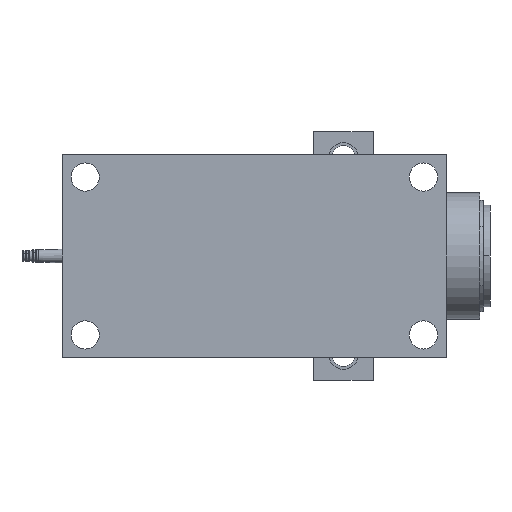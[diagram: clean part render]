
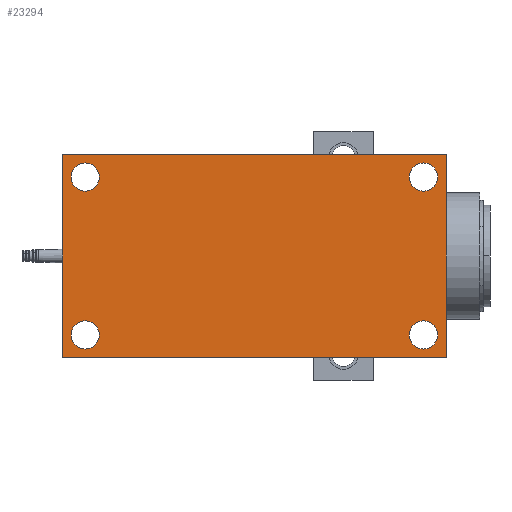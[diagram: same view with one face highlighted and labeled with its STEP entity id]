
A CAD part, front view. The second image highlights one B-rep face of the part: STEP entity #23294.
In plain terms, the highlighted planar face has unit normal (0, -1, 0).
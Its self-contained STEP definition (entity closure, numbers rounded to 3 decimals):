
#226 = DIRECTION ( 'NONE',  ( 0., 0., -1. ) ) ;
#260 = VERTEX_POINT ( 'NONE', #15306 ) ;
#381 = CARTESIAN_POINT ( 'NONE',  ( 150., 0., 70. ) ) ;
#398 = FACE_BOUND ( 'NONE', #14677, .T. ) ;
#443 = CARTESIAN_POINT ( 'NONE',  ( 150., 0., -70. ) ) ;
#444 = VERTEX_POINT ( 'NONE', #8949 ) ;
#480 = VERTEX_POINT ( 'NONE', #4653 ) ;
#929 = AXIS2_PLACEMENT_3D ( 'NONE', #18073, #12012, #1859 ) ;
#1042 = EDGE_CURVE ( 'NONE', #260, #5732, #4012, .T. ) ;
#1051 = LINE ( 'NONE', #20526, #20611 ) ;
#1081 = EDGE_CURVE ( 'NONE', #22637, #23159, #1051, .T. ) ;
#1115 = AXIS2_PLACEMENT_3D ( 'NONE', #3111, #10924, #22970 ) ;
#1859 = DIRECTION ( 'NONE',  ( 0., 0., -1. ) ) ;
#2436 = EDGE_CURVE ( 'NONE', #9996, #20720, #8576, .T. ) ;
#2523 = CIRCLE ( 'NONE', #19075, 12.5 ) ;
#3111 = CARTESIAN_POINT ( 'NONE',  ( -150., 0., 70. ) ) ;
#3112 = CARTESIAN_POINT ( 'NONE',  ( 150., 0., 57.5 ) ) ;
#3733 = DIRECTION ( 'NONE',  ( 1., 0., 0. ) ) ;
#3991 = AXIS2_PLACEMENT_3D ( 'NONE', #22026, #17994, #226 ) ;
#4012 = CIRCLE ( 'NONE', #1115, 12.5 ) ;
#4037 = VECTOR ( 'NONE', #10045, 1000. ) ;
#4653 = CARTESIAN_POINT ( 'NONE',  ( 150., 0., 82.5 ) ) ;
#4668 = PLANE ( 'NONE',  #9244 ) ;
#5732 = VERTEX_POINT ( 'NONE', #20276 ) ;
#5807 = DIRECTION ( 'NONE',  ( 0., 0., 1. ) ) ;
#6483 = DIRECTION ( 'NONE',  ( 0., -1., 0. ) ) ;
#6547 = AXIS2_PLACEMENT_3D ( 'NONE', #381, #16205, #22166 ) ;
#6616 = FACE_BOUND ( 'NONE', #21126, .T. ) ;
#7296 = CARTESIAN_POINT ( 'NONE',  ( -170., 0., -90. ) ) ;
#8054 = VERTEX_POINT ( 'NONE', #17861 ) ;
#8432 = EDGE_CURVE ( 'NONE', #8054, #9853, #23304, .T. ) ;
#8471 = VERTEX_POINT ( 'NONE', #15621 ) ;
#8576 = CIRCLE ( 'NONE', #3991, 12.5 ) ;
#8584 = FACE_BOUND ( 'NONE', #23896, .T. ) ;
#8949 = CARTESIAN_POINT ( 'NONE',  ( 170., 0., 90. ) ) ;
#9031 = DIRECTION ( 'NONE',  ( 0., -1., 0. ) ) ;
#9244 = AXIS2_PLACEMENT_3D ( 'NONE', #18545, #6483, #20507 ) ;
#9853 = VERTEX_POINT ( 'NONE', #18665 ) ;
#9983 = AXIS2_PLACEMENT_3D ( 'NONE', #24173, #12766, #22599 ) ;
#9996 = VERTEX_POINT ( 'NONE', #20496 ) ;
#10045 = DIRECTION ( 'NONE',  ( 0., 0., -1. ) ) ;
#10271 = AXIS2_PLACEMENT_3D ( 'NONE', #12679, #9031, #22639 ) ;
#10303 = DIRECTION ( 'NONE',  ( 0., -1., 0. ) ) ;
#10621 = ORIENTED_EDGE ( 'NONE', *, *, #1081, .F. ) ;
#10853 = ORIENTED_EDGE ( 'NONE', *, *, #18730, .F. ) ;
#10924 = DIRECTION ( 'NONE',  ( 0., -1., 0. ) ) ;
#11040 = DIRECTION ( 'NONE',  ( -1., 0., 0. ) ) ;
#11160 = EDGE_CURVE ( 'NONE', #23159, #8471, #13466, .T. ) ;
#11265 = CARTESIAN_POINT ( 'NONE',  ( -170., 0., 90. ) ) ;
#12012 = DIRECTION ( 'NONE',  ( 0., -1., 0. ) ) ;
#12228 = EDGE_LOOP ( 'NONE', ( #15793, #20844, #20635, #10621 ) ) ;
#12679 = CARTESIAN_POINT ( 'NONE',  ( 150., 0., 70. ) ) ;
#12766 = DIRECTION ( 'NONE',  ( 0., -1., 0. ) ) ;
#13278 = EDGE_CURVE ( 'NONE', #5732, #260, #21150, .T. ) ;
#13466 = LINE ( 'NONE', #11265, #21901 ) ;
#13972 = LINE ( 'NONE', #15529, #22800 ) ;
#14077 = AXIS2_PLACEMENT_3D ( 'NONE', #443, #10303, #22110 ) ;
#14124 = ORIENTED_EDGE ( 'NONE', *, *, #15528, .F. ) ;
#14312 = CARTESIAN_POINT ( 'NONE',  ( 170., 0., 90. ) ) ;
#14533 = FACE_OUTER_BOUND ( 'NONE', #12228, .T. ) ;
#14677 = EDGE_LOOP ( 'NONE', ( #16086, #24008 ) ) ;
#14940 = EDGE_LOOP ( 'NONE', ( #10853, #14124 ) ) ;
#15306 = CARTESIAN_POINT ( 'NONE',  ( -150., 0., 82.5 ) ) ;
#15528 = EDGE_CURVE ( 'NONE', #480, #22159, #16090, .T. ) ;
#15529 = CARTESIAN_POINT ( 'NONE',  ( -170., 0., 90. ) ) ;
#15621 = CARTESIAN_POINT ( 'NONE',  ( -170., 0., 90. ) ) ;
#15793 = ORIENTED_EDGE ( 'NONE', *, *, #18885, .F. ) ;
#16086 = ORIENTED_EDGE ( 'NONE', *, *, #13278, .F. ) ;
#16090 = CIRCLE ( 'NONE', #6547, 12.5 ) ;
#16205 = DIRECTION ( 'NONE',  ( 0., -1., 0. ) ) ;
#16509 = ORIENTED_EDGE ( 'NONE', *, *, #21996, .F. ) ;
#16821 = CARTESIAN_POINT ( 'NONE',  ( 170., 0., -90. ) ) ;
#17597 = CARTESIAN_POINT ( 'NONE',  ( 150., 0., -57.5 ) ) ;
#17807 = DIRECTION ( 'NONE',  ( 0., -1., 0. ) ) ;
#17861 = CARTESIAN_POINT ( 'NONE',  ( -150., 0., -57.5 ) ) ;
#17994 = DIRECTION ( 'NONE',  ( 0., -1., 0. ) ) ;
#18073 = CARTESIAN_POINT ( 'NONE',  ( -150., 0., -70. ) ) ;
#18188 = DIRECTION ( 'NONE',  ( 0., 0., -1. ) ) ;
#18545 = CARTESIAN_POINT ( 'NONE',  ( 0., 0., 0. ) ) ;
#18665 = CARTESIAN_POINT ( 'NONE',  ( -150., 0., -82.5 ) ) ;
#18730 = EDGE_CURVE ( 'NONE', #22159, #480, #24347, .T. ) ;
#18772 = ORIENTED_EDGE ( 'NONE', *, *, #8432, .F. ) ;
#18885 = EDGE_CURVE ( 'NONE', #444, #22637, #22104, .T. ) ;
#19075 = AXIS2_PLACEMENT_3D ( 'NONE', #22084, #17807, #18188 ) ;
#19965 = ORIENTED_EDGE ( 'NONE', *, *, #2436, .F. ) ;
#20276 = CARTESIAN_POINT ( 'NONE',  ( -150., 0., 57.5 ) ) ;
#20496 = CARTESIAN_POINT ( 'NONE',  ( 150., 0., -82.5 ) ) ;
#20507 = DIRECTION ( 'NONE',  ( 0., 0., -1. ) ) ;
#20526 = CARTESIAN_POINT ( 'NONE',  ( -170., 0., -90. ) ) ;
#20611 = VECTOR ( 'NONE', #11040, 1000. ) ;
#20635 = ORIENTED_EDGE ( 'NONE', *, *, #11160, .F. ) ;
#20720 = VERTEX_POINT ( 'NONE', #17597 ) ;
#20844 = ORIENTED_EDGE ( 'NONE', *, *, #21451, .F. ) ;
#20909 = EDGE_CURVE ( 'NONE', #20720, #9996, #25253, .T. ) ;
#21126 = EDGE_LOOP ( 'NONE', ( #19965, #25181 ) ) ;
#21150 = CIRCLE ( 'NONE', #9983, 12.5 ) ;
#21451 = EDGE_CURVE ( 'NONE', #8471, #444, #13972, .T. ) ;
#21901 = VECTOR ( 'NONE', #5807, 1000. ) ;
#21996 = EDGE_CURVE ( 'NONE', #9853, #8054, #2523, .T. ) ;
#22026 = CARTESIAN_POINT ( 'NONE',  ( 150., 0., -70. ) ) ;
#22084 = CARTESIAN_POINT ( 'NONE',  ( -150., 0., -70. ) ) ;
#22104 = LINE ( 'NONE', #14312, #4037 ) ;
#22110 = DIRECTION ( 'NONE',  ( 0., 0., -1. ) ) ;
#22159 = VERTEX_POINT ( 'NONE', #3112 ) ;
#22166 = DIRECTION ( 'NONE',  ( 0., 0., -1. ) ) ;
#22446 = FACE_BOUND ( 'NONE', #14940, .T. ) ;
#22599 = DIRECTION ( 'NONE',  ( 0., 0., -1. ) ) ;
#22637 = VERTEX_POINT ( 'NONE', #16821 ) ;
#22639 = DIRECTION ( 'NONE',  ( 0., 0., -1. ) ) ;
#22800 = VECTOR ( 'NONE', #3733, 1000. ) ;
#22970 = DIRECTION ( 'NONE',  ( 0., 0., -1. ) ) ;
#23159 = VERTEX_POINT ( 'NONE', #7296 ) ;
#23294 = ADVANCED_FACE ( 'NONE', ( #398, #22446, #6616, #8584, #14533 ), #4668, .T. ) ;
#23304 = CIRCLE ( 'NONE', #929, 12.5 ) ;
#23896 = EDGE_LOOP ( 'NONE', ( #16509, #18772 ) ) ;
#24008 = ORIENTED_EDGE ( 'NONE', *, *, #1042, .F. ) ;
#24173 = CARTESIAN_POINT ( 'NONE',  ( -150., 0., 70. ) ) ;
#24347 = CIRCLE ( 'NONE', #10271, 12.5 ) ;
#25181 = ORIENTED_EDGE ( 'NONE', *, *, #20909, .F. ) ;
#25253 = CIRCLE ( 'NONE', #14077, 12.5 ) ;
